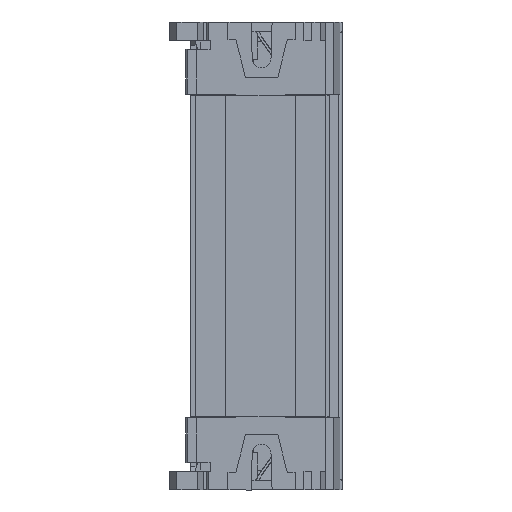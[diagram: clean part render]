
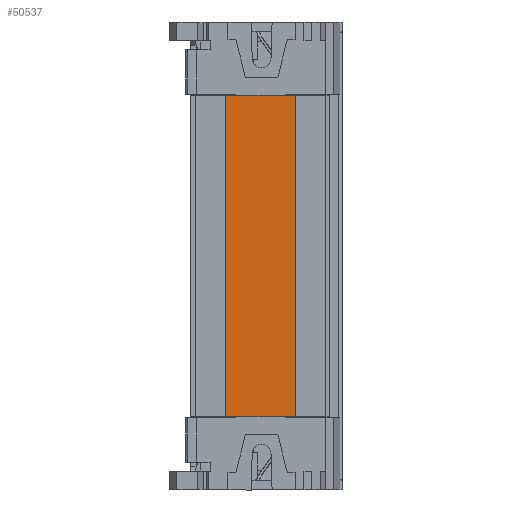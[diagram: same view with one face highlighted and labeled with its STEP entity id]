
A CAD part, front view. The second image highlights one B-rep face of the part: STEP entity #50537.
In plain terms, the highlighted planar face has unit normal (0, -1, 0).
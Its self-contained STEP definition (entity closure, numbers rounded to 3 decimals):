
#3680 = EDGE_CURVE ( 'NONE', #63791, #54070, #72471, .T. ) ;
#6307 = DIRECTION ( 'NONE',  ( 1., 0., 0. ) ) ;
#7527 = FACE_OUTER_BOUND ( 'NONE', #28602, .T. ) ;
#8896 = CARTESIAN_POINT ( 'NONE',  ( -10., -44.6, 0.25 ) ) ;
#9314 = VERTEX_POINT ( 'NONE', #8896 ) ;
#11915 = CARTESIAN_POINT ( 'NONE',  ( -10., -44.6, 0.25 ) ) ;
#12463 = CARTESIAN_POINT ( 'NONE',  ( -29.3, -44.6, 89.25 ) ) ;
#12870 = VECTOR ( 'NONE', #56161, 1000. ) ;
#14691 = ORIENTED_EDGE ( 'NONE', *, *, #58167, .T. ) ;
#17762 = VECTOR ( 'NONE', #52050, 1000. ) ;
#24725 = LINE ( 'NONE', #69205, #38152 ) ;
#26867 = DIRECTION ( 'NONE',  ( 0., -1., 0. ) ) ;
#27716 = ORIENTED_EDGE ( 'NONE', *, *, #53979, .T. ) ;
#27865 = PLANE ( 'NONE',  #70743 ) ;
#28129 = LINE ( 'NONE', #33068, #12870 ) ;
#28602 = EDGE_LOOP ( 'NONE', ( #41489, #14691, #47229, #27716 ) ) ;
#30054 = CARTESIAN_POINT ( 'NONE',  ( -29.3, -44.6, 0.25 ) ) ;
#33024 = LINE ( 'NONE', #11915, #17762 ) ;
#33068 = CARTESIAN_POINT ( 'NONE',  ( -29.3, -44.6, 89.25 ) ) ;
#38152 = VECTOR ( 'NONE', #6307, 1000. ) ;
#41489 = ORIENTED_EDGE ( 'NONE', *, *, #3680, .T. ) ;
#45620 = CARTESIAN_POINT ( 'NONE',  ( -10., -44.6, 89.25 ) ) ;
#47229 = ORIENTED_EDGE ( 'NONE', *, *, #69657, .T. ) ;
#50537 = ADVANCED_FACE ( 'NONE', ( #7527 ), #27865, .T. ) ;
#52050 = DIRECTION ( 'NONE',  ( 0., 0., 1. ) ) ;
#53979 = EDGE_CURVE ( 'NONE', #69101, #63791, #28129, .T. ) ;
#54070 = VERTEX_POINT ( 'NONE', #57398 ) ;
#56161 = DIRECTION ( 'NONE',  ( -1., 0., 0. ) ) ;
#57285 = VECTOR ( 'NONE', #70152, 1000. ) ;
#57398 = CARTESIAN_POINT ( 'NONE',  ( -29.3, -44.6, 0.25 ) ) ;
#58167 = EDGE_CURVE ( 'NONE', #54070, #9314, #24725, .T. ) ;
#61215 = CARTESIAN_POINT ( 'NONE',  ( -29.3, -44.6, 0.25 ) ) ;
#63791 = VERTEX_POINT ( 'NONE', #12463 ) ;
#66975 = DIRECTION ( 'NONE',  ( 0., 0., -1. ) ) ;
#69101 = VERTEX_POINT ( 'NONE', #45620 ) ;
#69205 = CARTESIAN_POINT ( 'NONE',  ( -29.3, -44.6, 0.25 ) ) ;
#69657 = EDGE_CURVE ( 'NONE', #9314, #69101, #33024, .T. ) ;
#70152 = DIRECTION ( 'NONE',  ( 0., 0., -1. ) ) ;
#70743 = AXIS2_PLACEMENT_3D ( 'NONE', #61215, #26867, #66975 ) ;
#72471 = LINE ( 'NONE', #30054, #57285 ) ;
